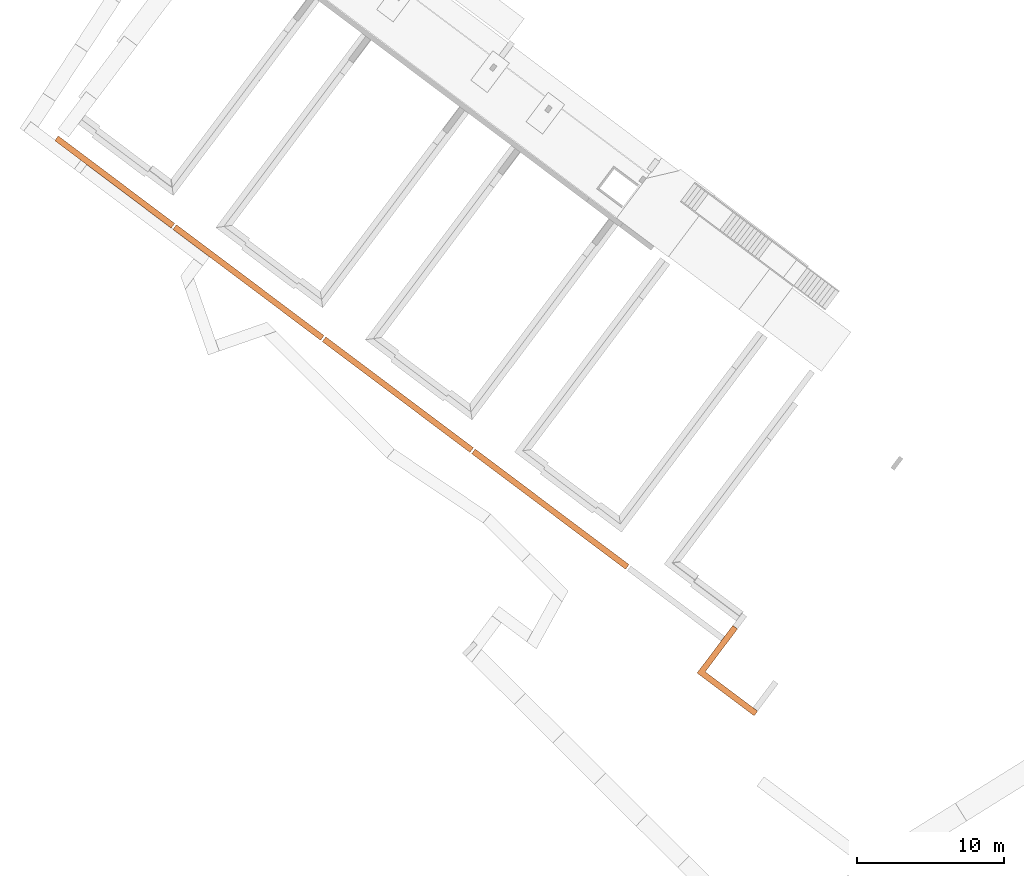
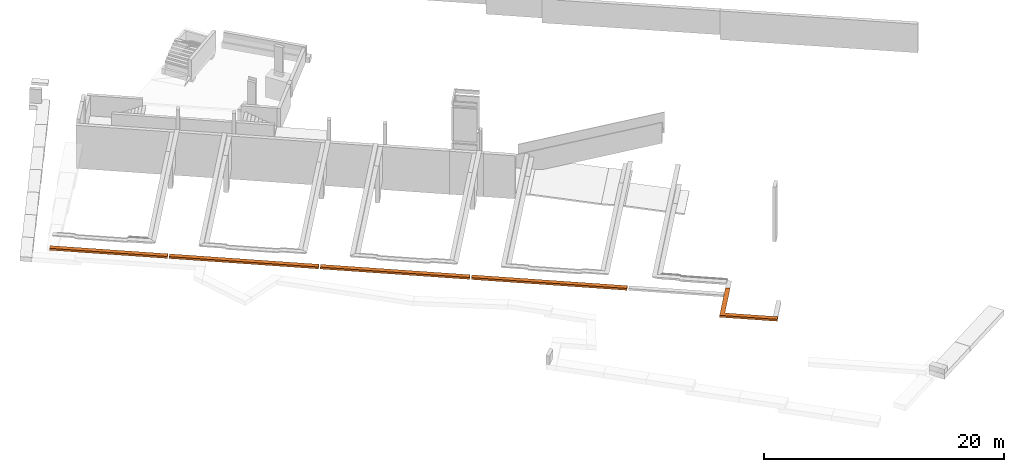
# One storey, part 8 of 11: 5 proxies.
"""IFC2X3 building model written with IfcOpenShell, lengths in metres."""

from ifc_helpers import new_model, entity, si_unit, converted_unit, derived_unit, direction, frame, origin, place, context, subcontext, project, spatial, polyline, outline, extrude, faceted_brep, type_object, element, save


model = new_model("IFC2X3")

# Units and contexts
model_context = context("Model", 3, precision=1e-05, world=origin(), true_north=direction((6.123031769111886e-17, 1.0)))
body_context = subcontext(model_context, "Body", "Model", "MODEL_VIEW")
ifc_project = project(units=[si_unit("LENGTHUNIT", "METRE"), si_unit("AREAUNIT", "SQUARE_METRE"), si_unit("VOLUMEUNIT", "CUBIC_METRE"), converted_unit("PLANEANGLEUNIT", "DEGREE", entity("IfcRatioMeasure", 0.017453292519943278), si_unit("PLANEANGLEUNIT", "RADIAN"), dimensions=[0, 0, 0, 0, 0, 0, 0]), si_unit("MASSUNIT", "GRAM", prefix="KILO"), derived_unit("MASSDENSITYUNIT", [(si_unit("MASSUNIT", "GRAM", prefix="KILO"), 1), (si_unit("LENGTHUNIT", "METRE"), -3)]), derived_unit("IONCONCENTRATIONUNIT", [(si_unit("MASSUNIT", "GRAM", prefix="KILO"), 1), (si_unit("LENGTHUNIT", "METRE"), -3)]), derived_unit("MOMENTOFINERTIAUNIT", [(si_unit("LENGTHUNIT", "METRE"), 4)]), si_unit("TIMEUNIT", "SECOND"), si_unit("FREQUENCYUNIT", "HERTZ"), si_unit("THERMODYNAMICTEMPERATUREUNIT", "DEGREE_CELSIUS"), derived_unit("THERMALTRANSMITTANCEUNIT", [(si_unit("MASSUNIT", "GRAM", prefix="KILO"), 1), (si_unit("THERMODYNAMICTEMPERATUREUNIT", "KELVIN"), -1), (si_unit("TIMEUNIT", "SECOND"), -3)]), derived_unit("THERMALCONDUCTANCEUNIT", [(si_unit("MASSUNIT", "GRAM", prefix="KILO"), 1), (si_unit("THERMODYNAMICTEMPERATUREUNIT", "KELVIN"), -1), (si_unit("TIMEUNIT", "SECOND"), -3), (si_unit("LENGTHUNIT", "METRE"), 1)]), derived_unit("VOLUMETRICFLOWRATEUNIT", [(si_unit("LENGTHUNIT", "METRE"), 3), (si_unit("TIMEUNIT", "SECOND"), -1)]), derived_unit("MASSFLOWRATEUNIT", [(si_unit("MASSUNIT", "GRAM", prefix="KILO"), 1), (si_unit("TIMEUNIT", "SECOND"), -1)]), derived_unit("ROTATIONALFREQUENCYUNIT", [(si_unit("TIMEUNIT", "SECOND"), -1)]), si_unit("ELECTRICCURRENTUNIT", "AMPERE"), si_unit("ELECTRICVOLTAGEUNIT", "VOLT"), si_unit("POWERUNIT", "WATT"), si_unit("FORCEUNIT", "NEWTON", prefix="KILO"), si_unit("ILLUMINANCEUNIT", "LUX"), si_unit("LUMINOUSFLUXUNIT", "LUMEN"), si_unit("LUMINOUSINTENSITYUNIT", "CANDELA"), derived_unit("USERDEFINED", [(si_unit("MASSUNIT", "GRAM", prefix="KILO"), -1), (si_unit("LENGTHUNIT", "METRE"), -2), (si_unit("TIMEUNIT", "SECOND"), 3), (si_unit("LUMINOUSFLUXUNIT", "LUMEN"), 1)]), derived_unit("USERDEFINED", [(si_unit("MASSUNIT", "GRAM", prefix="KILO"), 1), (si_unit("TIMEUNIT", "SECOND"), -3), (si_unit("LENGTHUNIT", "METRE"), 3), (si_unit("ELECTRICCURRENTUNIT", "AMPERE"), -2)]), derived_unit("SOUNDPOWERUNIT", [(si_unit("MASSUNIT", "GRAM", prefix="KILO"), 1), (si_unit("TIMEUNIT", "SECOND"), -3), (si_unit("LENGTHUNIT", "METRE"), 2)]), derived_unit("SOUNDPRESSUREUNIT", [(si_unit("MASSUNIT", "GRAM", prefix="KILO"), 1), (si_unit("LENGTHUNIT", "METRE"), -1), (si_unit("TIMEUNIT", "SECOND"), -2)]), derived_unit("LINEARVELOCITYUNIT", [(si_unit("LENGTHUNIT", "METRE"), 1), (si_unit("TIMEUNIT", "SECOND"), -1)]), si_unit("PRESSUREUNIT", "PASCAL"), derived_unit("USERDEFINED", [(si_unit("MASSUNIT", "GRAM", prefix="KILO"), 1), (si_unit("LENGTHUNIT", "METRE"), -2), (si_unit("TIMEUNIT", "SECOND"), -2)]), derived_unit("LINEARFORCEUNIT", [(si_unit("MASSUNIT", "GRAM", prefix="KILO"), 1), (si_unit("TIMEUNIT", "SECOND"), -2)]), derived_unit("PLANARFORCEUNIT", [(si_unit("MASSUNIT", "GRAM", prefix="KILO"), 1), (si_unit("LENGTHUNIT", "METRE"), -1), (si_unit("TIMEUNIT", "SECOND"), -2)]), derived_unit("SPECIFICHEATCAPACITYUNIT", [(si_unit("THERMODYNAMICTEMPERATUREUNIT", "KELVIN"), -1), (si_unit("LENGTHUNIT", "METRE"), 2), (si_unit("TIMEUNIT", "SECOND"), -2)]), derived_unit("HEATINGVALUEUNIT", [(si_unit("LENGTHUNIT", "METRE"), 2), (si_unit("TIMEUNIT", "SECOND"), -2)]), derived_unit("VAPORPERMEABILITYUNIT", [(si_unit("LENGTHUNIT", "METRE"), -1), (si_unit("TIMEUNIT", "SECOND"), 1)]), derived_unit("DYNAMICVISCOSITYUNIT", [(si_unit("MASSUNIT", "GRAM", prefix="KILO"), 1), (si_unit("TIMEUNIT", "SECOND"), -1), (si_unit("LENGTHUNIT", "METRE"), -1)]), derived_unit("THERMALEXPANSIONCOEFFICIENTUNIT", [(si_unit("THERMODYNAMICTEMPERATUREUNIT", "KELVIN"), -1)]), derived_unit("MODULUSOFELASTICITYUNIT", [(si_unit("MASSUNIT", "GRAM", prefix="KILO"), 1), (si_unit("LENGTHUNIT", "METRE"), -1), (si_unit("TIMEUNIT", "SECOND"), -2)]), derived_unit("ISOTHERMALMOISTURECAPACITYUNIT", [(si_unit("LENGTHUNIT", "METRE"), 3), (si_unit("MASSUNIT", "GRAM", prefix="KILO"), -1)]), derived_unit("MOISTUREDIFFUSIVITYUNIT", [(si_unit("TIMEUNIT", "SECOND"), -1), (si_unit("LENGTHUNIT", "METRE"), 2)])], contexts=[model_context])

# Site, building, storey
site_placement = place(None, origin())
site = spatial("IfcSite", under=ifc_project, at=site_placement, Name="Default", CompositionType="ELEMENT")
building_placement = place(site_placement, frame((0.0, 0.0, 235.0), z_axis=(0.0, 0.0, 1.0), x_axis=(-0.7996477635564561, 0.6004693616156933, 0.0)))
building = spatial("IfcBuilding", under=site, at=building_placement, CompositionType="ELEMENT")
storey_placement = place(building_placement, frame((0.0, 0.0, -4.459999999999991)))
storey = spatial("IfcBuildingStorey", under=building, at=storey_placement, Name="PS1- Vestuari", CompositionType="ELEMENT", Elevation=-4.459999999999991)

# Proxies
building_element_proxy_type = type_object("IfcBuildingElementProxyType", Name="Borde de losa:STR- Formigó- Vora solera 15 cm- 35x30 cm", PredefinedType="NOTDEFINED")
proxy_1_placement = place(storey_placement, frame((13.245147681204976, -19.36564622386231, 3.819999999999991)))
element("IfcBuildingElementProxy", 1, at=proxy_1_placement, inside=storey, type_object=building_element_proxy_type, Name="Borde de losa:STR- Formigó- Vora solera 15 cm- 35x30 cm", ObjectType="Borde de losa:STR- Formigó- Vora solera 15 cm- 35x30 cm", context=body_context, shape_type="Brep", body=[
    faceted_brep([(0.0, 4.045454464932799, 0.0), (0.0, 3.7454544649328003, 0.0), (0.0, 3.645454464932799, 0.20000000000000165), (0.0, 4.045454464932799, 0.2), (4.849999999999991, 4.04545446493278, 0.2), (4.8499999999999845, 4.04545446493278, 0.0), (4.449999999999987, 3.6454544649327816, 0.20000000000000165), (4.549999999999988, 3.745454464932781, 0.0), (4.849999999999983, 0.0, 0.0), (4.849999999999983, 0.0, 0.2), (4.449999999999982, 0.0, 0.2000000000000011), (4.549999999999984, 0.0, 0.0)], [[[0, 1, 2, 3]], [[4, 5, 0, 3]], [[6, 4, 3, 2]], [[7, 6, 2, 1]], [[5, 7, 1, 0]], [[8, 9, 10, 11]], [[9, 8, 5, 4]], [[10, 9, 4, 6]], [[11, 10, 6, 7]], [[8, 11, 7, 5]]]),
])
proxy_2_placement = place(storey_placement, frame((26.22014768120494, -18.440191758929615, 3.989999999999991)))
element("IfcBuildingElementProxy", 2, at=proxy_2_placement, inside=storey, type_object=building_element_proxy_type, Name="Borde de losa:STR- Formigó- Vora solera 15 cm- 35x30 cm", ObjectType="Borde de losa:STR- Formigó- Vora solera 15 cm- 35x30 cm", context=body_context, shape_type="SweptSolid", body=[
    extrude(outline(polyline([(-0.10000000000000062, -0.1749999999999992), (0.0999999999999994, -0.1749999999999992), (0.10000000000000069, 0.22500000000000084), (-0.09999999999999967, 0.12499999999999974), (-0.10000000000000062, -0.1749999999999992)])), frame((0.0, 0.22500000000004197, 0.10000000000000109), z_axis=(1.0, 0.0, 0.0), x_axis=(0.0, 0.0, 1.0)), (0.0, 0.0, 1.0), 13.075000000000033),
])
proxy_3_placement = place(storey_placement, frame((39.44514768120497, -18.440191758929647, 3.989999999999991)))
element("IfcBuildingElementProxy", 3, at=proxy_3_placement, inside=storey, type_object=building_element_proxy_type, Name="Borde de losa:STR- Formigó- Vora solera 15 cm- 35x30 cm", ObjectType="Borde de losa:STR- Formigó- Vora solera 15 cm- 35x30 cm", context=body_context, shape_type="SweptSolid", body=[
    extrude(outline(polyline([(-0.10000000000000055, -0.17500000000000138), (0.09999999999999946, -0.17500000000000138), (0.10000000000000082, 0.22499999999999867), (-0.0999999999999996, 0.12499999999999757), (-0.10000000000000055, -0.17500000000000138)])), frame((0.0, 0.2250000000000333, 0.10000000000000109), z_axis=(1.0, 0.0, 0.0), x_axis=(0.0, 0.0, 1.0)), (0.0, 0.0, 1.0), 12.549999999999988),
])
proxy_4_placement = place(storey_placement, frame((52.14514768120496, -18.440191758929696, 3.9899999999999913)))
element("IfcBuildingElementProxy", 4, at=proxy_4_placement, inside=storey, type_object=building_element_proxy_type, Name="Borde de losa:STR- Formigó- Vora solera 15 cm- 35x30 cm", ObjectType="Borde de losa:STR- Formigó- Vora solera 15 cm- 35x30 cm", context=body_context, shape_type="SweptSolid", body=[
    extrude(outline(polyline([(-0.10000000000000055, -0.1749999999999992), (0.09999999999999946, -0.1749999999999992), (0.10000000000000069, 0.22500000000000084), (-0.0999999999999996, 0.12499999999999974), (-0.10000000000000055, -0.1749999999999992)])), frame((0.0, 0.2250000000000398, 0.10000000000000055), z_axis=(1.0, 0.0, 0.0), x_axis=(0.0, 0.0, 1.0)), (0.0, 0.0, 1.0), 12.549999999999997),
])
proxy_5_placement = place(storey_placement, frame((64.84514768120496, -18.440191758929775, 3.989999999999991)))
element("IfcBuildingElementProxy", 5, at=proxy_5_placement, inside=storey, type_object=building_element_proxy_type, Name="Borde de losa:STR- Formigó- Vora solera 15 cm- 35x30 cm", ObjectType="Borde de losa:STR- Formigó- Vora solera 15 cm- 35x30 cm", context=body_context, shape_type="Brep", body=[
    faceted_brep([(0.0, 0.4000000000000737, 0.0), (0.0, 0.10000000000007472, 0.0), (0.0, 0.0, 0.2000000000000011), (0.0, 0.4000000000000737, 0.2), (1.5999999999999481, 0.400000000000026, 0.2000000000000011), (1.5999999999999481, 0.400000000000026, 0.0), (1.5999999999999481, 0.0, 0.20000000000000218), (1.5999999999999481, 0.10000000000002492, 0.0), (9.900000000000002, 0.4, 0.0), (9.900000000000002, 0.4, 0.20000000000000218), (9.900000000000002, 0.0, 0.20000000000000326), (9.900000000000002, 0.10000000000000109, 0.0)], [[[0, 1, 2, 3]], [[4, 5, 0, 3]], [[6, 4, 3, 2]], [[7, 6, 2, 1]], [[5, 7, 1, 0]], [[8, 9, 10, 11]], [[9, 8, 5, 4]], [[10, 9, 4, 6]], [[11, 10, 6, 7]], [[8, 11, 7, 5]]]),
])

save(model, "model.ifc")
